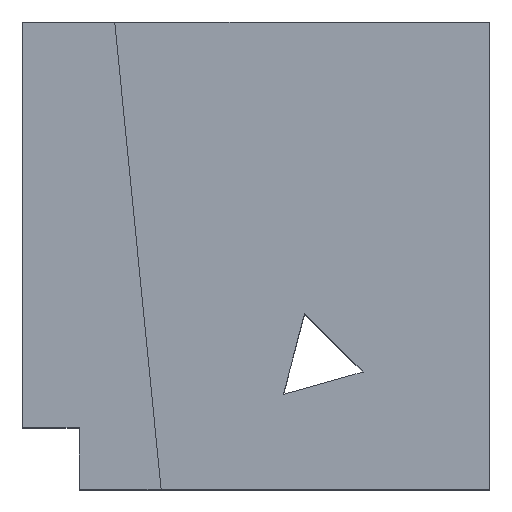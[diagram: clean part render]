
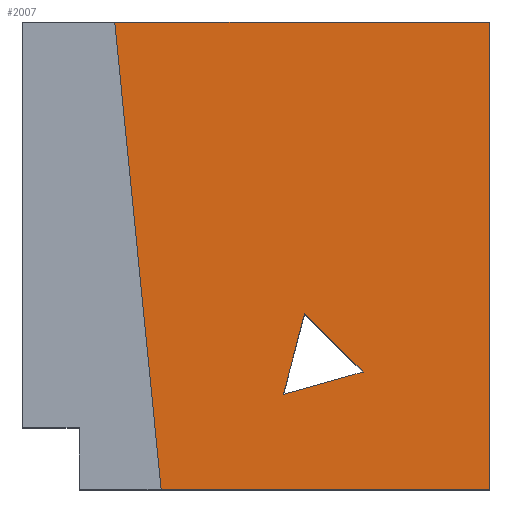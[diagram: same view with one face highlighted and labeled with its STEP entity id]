
A CAD part, top view. The second image highlights one B-rep face of the part: STEP entity #2007.
In plain terms, the highlighted planar face has unit normal (0, 0, 1).
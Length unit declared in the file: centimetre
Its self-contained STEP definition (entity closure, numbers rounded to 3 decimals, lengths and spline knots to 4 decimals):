
#4 = CARTESIAN_POINT ( 'NONE',  ( 0., 0., 1000. ) ) ;
#41 = LINE ( 'NONE', #70, #1103 ) ;
#50 = CARTESIAN_POINT ( 'NONE',  ( 603.8785, 376.0981, 1000. ) ) ;
#56 = LINE ( 'NONE', #509, #639 ) ;
#70 = CARTESIAN_POINT ( 'NONE',  ( 0., 1000., 1000. ) ) ;
#76 = EDGE_CURVE ( 'NONE', #1707, #755, #56, .T. ) ;
#93 = CARTESIAN_POINT ( 'NONE',  ( 197.6343, 1000., 1000. ) ) ;
#187 = VERTEX_POINT ( 'NONE', #1324 ) ;
#214 = ORIENTED_EDGE ( 'NONE', *, *, #2023, .T. ) ;
#272 = VERTEX_POINT ( 'NONE', #2028 ) ;
#279 = VERTEX_POINT ( 'NONE', #1858 ) ;
#337 = DIRECTION ( 'NONE',  ( 1., 0., 0. ) ) ;
#395 = EDGE_LOOP ( 'NONE', ( #1040, #884, #881 ) ) ;
#413 = VECTOR ( 'NONE', #1735, 100. ) ;
#414 = ORIENTED_EDGE ( 'NONE', *, *, #1866, .F. ) ;
#440 = LINE ( 'NONE', #461, #1901 ) ;
#461 = CARTESIAN_POINT ( 'NONE',  ( 729.1473, 250.8293, 1000. ) ) ;
#499 = CARTESIAN_POINT ( 'NONE',  ( 0., 0., 1000. ) ) ;
#509 = CARTESIAN_POINT ( 'NONE',  ( 558.5916, 202.8703, 1000. ) ) ;
#628 = FACE_BOUND ( 'NONE', #395, .T. ) ;
#639 = VECTOR ( 'NONE', #1986, 100. ) ;
#649 = DIRECTION ( 'NONE',  ( -1., 0., 0. ) ) ;
#685 = ORIENTED_EDGE ( 'NONE', *, *, #1208, .T. ) ;
#695 = LINE ( 'NONE', #50, #1365 ) ;
#755 = VERTEX_POINT ( 'NONE', #1498 ) ;
#771 = VERTEX_POINT ( 'NONE', #1447 ) ;
#843 = ORIENTED_EDGE ( 'NONE', *, *, #1487, .T. ) ;
#881 = ORIENTED_EDGE ( 'NONE', *, *, #76, .F. ) ;
#884 = ORIENTED_EDGE ( 'NONE', *, *, #1266, .F. ) ;
#908 = DIRECTION ( 'NONE',  ( 0., 1., 0. ) ) ;
#1040 = ORIENTED_EDGE ( 'NONE', *, *, #1740, .F. ) ;
#1103 = VECTOR ( 'NONE', #649, 100. ) ;
#1108 = FACE_OUTER_BOUND ( 'NONE', #1939, .T. ) ;
#1134 = DIRECTION ( 'NONE',  ( 0., 0., 1. ) ) ;
#1208 = EDGE_CURVE ( 'NONE', #187, #771, #41, .T. ) ;
#1220 = VERTEX_POINT ( 'NONE', #1701 ) ;
#1266 = EDGE_CURVE ( 'NONE', #755, #272, #440, .T. ) ;
#1324 = CARTESIAN_POINT ( 'NONE',  ( 1000., 1000., 1000. ) ) ;
#1337 = DIRECTION ( 'NONE',  ( -0.253, -0.967, 0. ) ) ;
#1365 = VECTOR ( 'NONE', #1337, 100. ) ;
#1423 = VECTOR ( 'NONE', #1557, 100. ) ;
#1427 = VECTOR ( 'NONE', #908, 100. ) ;
#1447 = CARTESIAN_POINT ( 'NONE',  ( 197.6343, 1000., 1000. ) ) ;
#1487 = EDGE_CURVE ( 'NONE', #279, #187, #1536, .T. ) ;
#1498 = CARTESIAN_POINT ( 'NONE',  ( 729.1473, 250.8293, 1000. ) ) ;
#1536 = LINE ( 'NONE', #2030, #1427 ) ;
#1555 = AXIS2_PLACEMENT_3D ( 'NONE', #4, #1134, #337 ) ;
#1557 = DIRECTION ( 'NONE',  ( -0.099, 0.995, 0. ) ) ;
#1574 = DIRECTION ( 'NONE',  ( -0.707, 0.707, 0. ) ) ;
#1701 = CARTESIAN_POINT ( 'NONE',  ( 296.9982, 0., 1000. ) ) ;
#1707 = VERTEX_POINT ( 'NONE', #2000 ) ;
#1735 = DIRECTION ( 'NONE',  ( 1., 0., 0. ) ) ;
#1740 = EDGE_CURVE ( 'NONE', #272, #1707, #695, .T. ) ;
#1858 = CARTESIAN_POINT ( 'NONE',  ( 1000., 0., 1000. ) ) ;
#1866 = EDGE_CURVE ( 'NONE', #1220, #771, #2032, .T. ) ;
#1901 = VECTOR ( 'NONE', #1574, 100. ) ;
#1935 = LINE ( 'NONE', #499, #413 ) ;
#1939 = EDGE_LOOP ( 'NONE', ( #414, #214, #843, #685 ) ) ;
#1986 = DIRECTION ( 'NONE',  ( 0.963, 0.271, 0. ) ) ;
#2000 = CARTESIAN_POINT ( 'NONE',  ( 558.5916, 202.8703, 1000. ) ) ;
#2007 = ADVANCED_FACE ( 'NONE', ( #628, #1108 ), #2061, .T. ) ;
#2023 = EDGE_CURVE ( 'NONE', #1220, #279, #1935, .T. ) ;
#2028 = CARTESIAN_POINT ( 'NONE',  ( 603.8785, 376.0981, 1000. ) ) ;
#2030 = CARTESIAN_POINT ( 'NONE',  ( 1000., 1000., 1000. ) ) ;
#2032 = LINE ( 'NONE', #93, #1423 ) ;
#2061 = PLANE ( 'NONE',  #1555 ) ;
